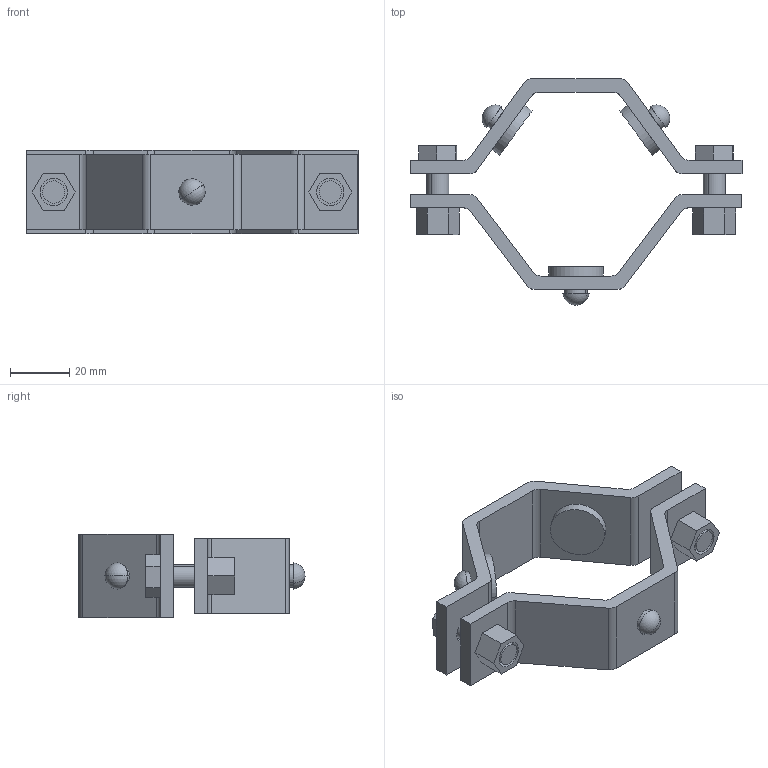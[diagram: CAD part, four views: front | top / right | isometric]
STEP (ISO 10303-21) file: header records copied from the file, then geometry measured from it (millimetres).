
FILE_DESCRIPTION (( 'STEP AP214' ), '1' );
FILE_NAME ('E24 2.0.STEP', '2025-07-16T18:14:56', ( '' ), ( '' ), 'SwSTEP 2.0', 'SolidWorks 2022', '' );
FILE_SCHEMA (( 'AUTOMOTIVE_DESIGN' ));
Length unit declared in the file: inch
Products named in the file (6): E24NUT; E24GROMMET 1.5-4.0; E24 2.0; E24BOLT; E24-1HOLE 2.0; E24-2HOLE 2.0
Assembly tree (9 placements, depth 2):
  E24 2.0
    E24-1HOLE 2.0
    E24-2HOLE 2.0
    E24BOLT  x2
    E24GROMMET 1.5-4.0  x3
    E24NUT  x2
Bounding box: 111.99 x 76.33 x 28.04 mm (x, y, z)
Volume: 40876.5 mm3; surface area: 24493.4 mm2
Topology: 9 solids, 9 shells, 133 faces, 318 edges, 213 vertices
Faces by surface type: plane 73, cylinder 54, sphere 6
Entity records: 3116 total; most frequent: DIRECTION 522, CARTESIAN_POINT 490, ORIENTED_EDGE 464, EDGE_CURVE 232, AXIS2_PLACEMENT_3D 187, VERTEX_POINT 155, LINE 148, VECTOR 148
